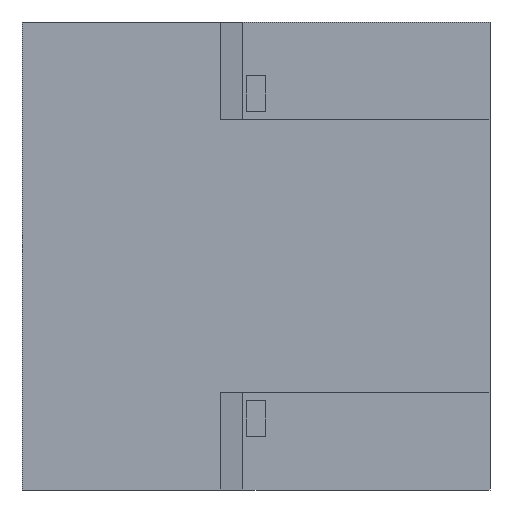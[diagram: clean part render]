
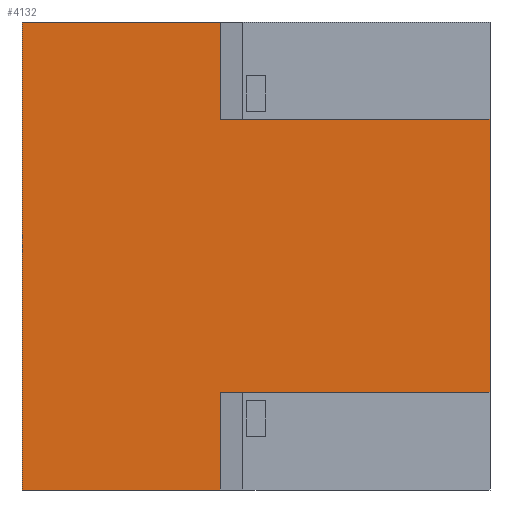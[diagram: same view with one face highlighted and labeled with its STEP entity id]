
A CAD part, front view. The second image highlights one B-rep face of the part: STEP entity #4132.
In plain terms, the highlighted planar face has unit normal (0, -1, 0).
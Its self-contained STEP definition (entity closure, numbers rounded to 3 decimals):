
#1=DIRECTION('',(-1.,0.,0.));
#2=VECTOR('',#1,4.15);
#3=CARTESIAN_POINT('',(3.6,0.,-2.1));
#4=LINE('',#3,#2);
#5=DIRECTION('',(0.,0.,1.));
#6=VECTOR('',#5,1.5);
#7=CARTESIAN_POINT('',(-0.55,0.,-3.6));
#8=LINE('',#7,#6);
#9=DIRECTION('',(-1.,0.,0.));
#10=VECTOR('',#9,3.05);
#11=CARTESIAN_POINT('',(-0.55,0.,-3.6));
#12=LINE('',#11,#10);
#13=DIRECTION('',(0.,0.,1.));
#14=VECTOR('',#13,7.2);
#15=CARTESIAN_POINT('',(-3.6,0.,-3.6));
#16=LINE('',#15,#14);
#17=DIRECTION('',(1.,0.,0.));
#18=VECTOR('',#17,3.05);
#19=CARTESIAN_POINT('',(-3.6,0.,3.6));
#20=LINE('',#19,#18);
#21=DIRECTION('',(0.,0.,-1.));
#22=VECTOR('',#21,1.5);
#23=CARTESIAN_POINT('',(-0.55,0.,3.6));
#24=LINE('',#23,#22);
#25=DIRECTION('',(-1.,0.,0.));
#26=VECTOR('',#25,4.15);
#27=CARTESIAN_POINT('',(3.6,0.,2.1));
#28=LINE('',#27,#26);
#29=DIRECTION('',(0.,0.,-1.));
#30=VECTOR('',#29,4.2);
#31=CARTESIAN_POINT('',(3.6,0.,2.1));
#32=LINE('',#31,#30);
#3097=CARTESIAN_POINT('',(-3.6,0.,-3.6));
#3098=CARTESIAN_POINT('',(-3.6,0.,3.6));
#3099=VERTEX_POINT('',#3097);
#3100=VERTEX_POINT('',#3098);
#3233=CARTESIAN_POINT('',(3.6,0.,2.1));
#3234=CARTESIAN_POINT('',(-0.55,0.,2.1));
#3235=VERTEX_POINT('',#3233);
#3236=VERTEX_POINT('',#3234);
#3237=CARTESIAN_POINT('',(-0.55,0.,3.6));
#3238=VERTEX_POINT('',#3237);
#3251=CARTESIAN_POINT('',(-0.55,0.,-2.1));
#3252=VERTEX_POINT('',#3251);
#3255=CARTESIAN_POINT('',(3.6,0.,-2.1));
#3256=VERTEX_POINT('',#3255);
#3257=CARTESIAN_POINT('',(-0.55,0.,-3.6));
#3258=VERTEX_POINT('',#3257);
#4109=CARTESIAN_POINT('',(0.,0.,0.));
#4110=DIRECTION('',(0.,1.,0.));
#4111=DIRECTION('',(1.,0.,0.));
#4112=AXIS2_PLACEMENT_3D('',#4109,#4110,#4111);
#4113=PLANE('',#4112);
#4115=ORIENTED_EDGE('',*,*,#4114,.T.);
#4117=ORIENTED_EDGE('',*,*,#4116,.F.);
#4119=ORIENTED_EDGE('',*,*,#4118,.T.);
#4121=ORIENTED_EDGE('',*,*,#4120,.T.);
#4123=ORIENTED_EDGE('',*,*,#4122,.T.);
#4125=ORIENTED_EDGE('',*,*,#4124,.T.);
#4127=ORIENTED_EDGE('',*,*,#4126,.F.);
#4129=ORIENTED_EDGE('',*,*,#4128,.T.);
#4130=EDGE_LOOP('',(#4115,#4117,#4119,#4121,#4123,#4125,#4127,#4129));
#4131=FACE_OUTER_BOUND('',#4130,.F.);
#4114=EDGE_CURVE('',#3256,#3252,#4,.T.);
#4116=EDGE_CURVE('',#3258,#3252,#8,.T.);
#4118=EDGE_CURVE('',#3258,#3099,#12,.T.);
#4120=EDGE_CURVE('',#3099,#3100,#16,.T.);
#4122=EDGE_CURVE('',#3100,#3238,#20,.T.);
#4124=EDGE_CURVE('',#3238,#3236,#24,.T.);
#4126=EDGE_CURVE('',#3235,#3236,#28,.T.);
#4128=EDGE_CURVE('',#3235,#3256,#32,.T.);
#4132=ADVANCED_FACE('',(#4131),#4113,.F.);
